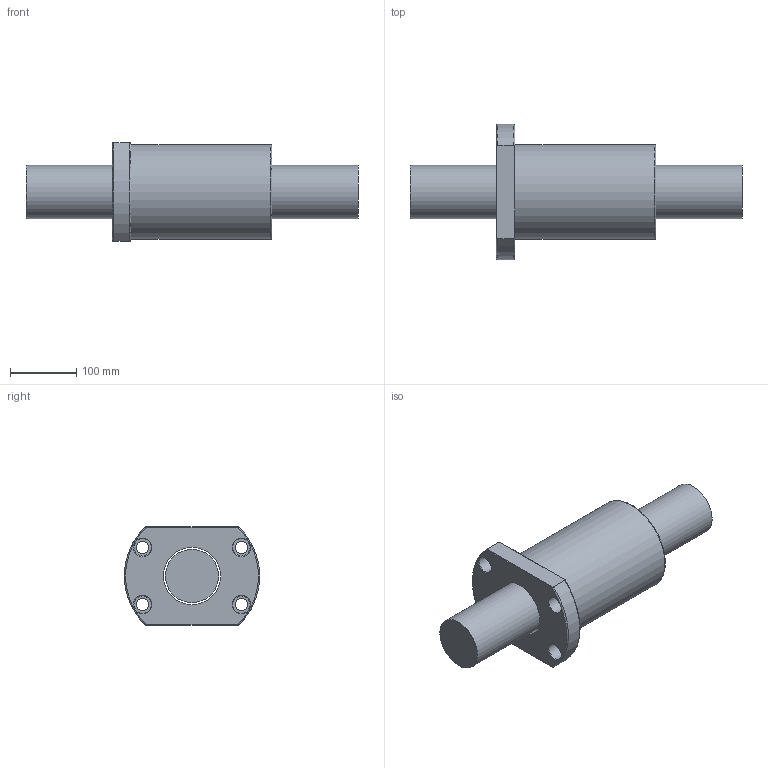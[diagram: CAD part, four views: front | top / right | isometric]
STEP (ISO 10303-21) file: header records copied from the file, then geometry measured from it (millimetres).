
FILE_DESCRIPTION (( 'STEP AP203' ), '1' );
FILE_NAME ('SFV08020D-7.6.step', '2024-05-20T03:40:43', ( '' ), ( '' ), 'SwSTEP 2.0', 'SolidWorks 2022', '' );
FILE_SCHEMA (( 'CONFIG_CONTROL_DESIGN' ));
Length unit declared in the file: millimetre
Products named in the file (1): SFV08020D-7.6
Bounding box: 500 x 204 x 148 mm (x, y, z)
Volume: 5233622.4 mm3; surface area: 361416.4 mm2
Topology: 2 solids, 2 shells, 56 faces, 134 edges, 87 vertices
Faces by surface type: cylinder 21, plane 16, cone 9, bspline 5, torus 5
Full cylindrical faces by diameter (mm): 4 x1, 7 x6, 18 x4, 26 x4, 80 x1, 86.1 x1, 143 x1
Entity records: 3534 total; most frequent: CARTESIAN_POINT 2487, DIRECTION 188, ORIENTED_EDGE 168, EDGE_LOOP 90, AXIS2_PLACEMENT_3D 87, EDGE_CURVE 84, VERTEX_POINT 68, FACE_OUTER_BOUND 64
